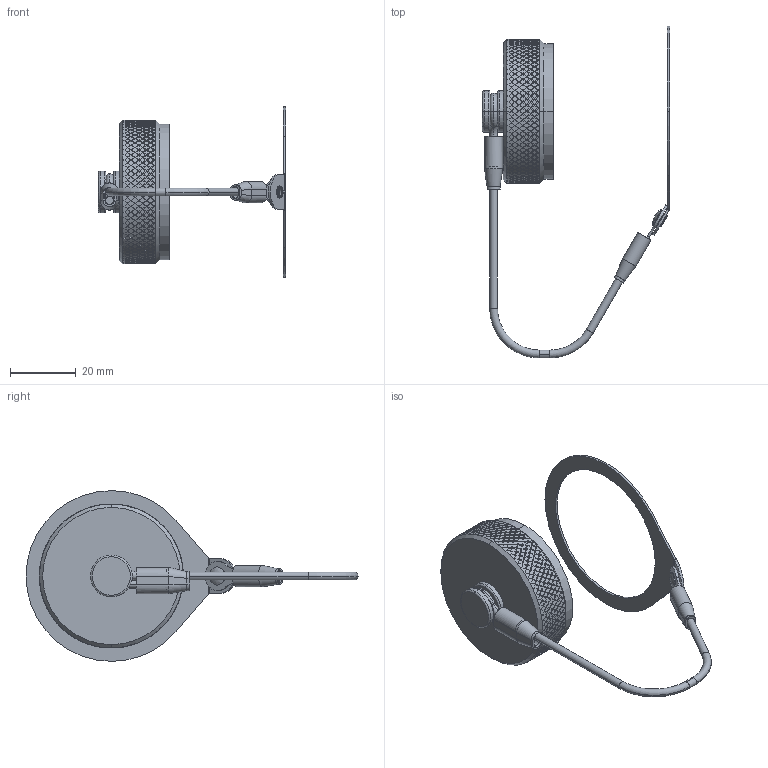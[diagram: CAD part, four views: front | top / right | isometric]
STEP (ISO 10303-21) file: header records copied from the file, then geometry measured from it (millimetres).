
FILE_DESCRIPTION (( 'STEP AP214' ), '1' );
FILE_NAME ('Q38DC-RJX-23-R0.STEP', '2026-04-22T20:35:11', ( '' ), ( '' ), 'SwSTEP 2.0', 'SolidWorks 2024', '' );
FILE_SCHEMA (( 'AUTOMOTIVE_DESIGN' ));
Length unit declared in the file: inch
Products named in the file (11): SW-XRXX_SW-BR23; HEAT SHRINK_HS-250X625_SW-348; SW-348; HEAT SHRINK_HS-125-625S; LN-06-07-13_Q38DC-RJX-23; SW-347; Lanyard Assembly Q38_Q38DC-RJX-23; Q38-XX29-P_23R; Q38-XX48-X_Q38-2348-X; SW-349_SW-349; Q38DC-RJX-23-R0
Assembly tree (10 placements, depth 3):
  Q38DC-RJX-23-R0
    Q38-XX48-X_Q38-2348-X
    Lanyard Assembly Q38_Q38DC-RJX-23
      LN-06-07-13_Q38DC-RJX-23
      SW-348
      HEAT SHRINK_HS-250X625_SW-348
      SW-347
      HEAT SHRINK_HS-125-625S
      SW-349_SW-349
      SW-XRXX_SW-BR23
    Q38-XX29-P_23R
Bounding box: 56.9 x 100.92 x 51.9 mm (x, y, z)
Volume: 11162.5 mm3; surface area: 13657.3 mm2
Topology: 9 solids, 9 shells, 3272 faces, 8076 edges, 5357 vertices
Faces by surface type: plane 2515, cylinder 707, torus 26, bspline 16, cone 6, sphere 2
Entity records: 96871 total; most frequent: CARTESIAN_POINT 33469, ORIENTED_EDGE 16152, DIRECTION 9870, EDGE_CURVE 8076, VERTEX_POINT 5357, EDGE_LOOP 3821, AXIS2_PLACEMENT_3D 3633, FACE_OUTER_BOUND 3272
